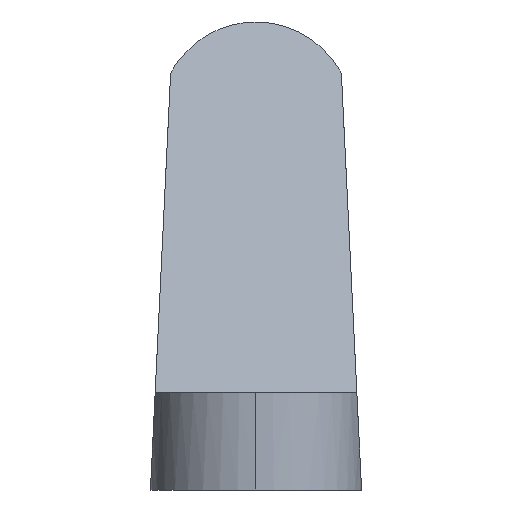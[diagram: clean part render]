
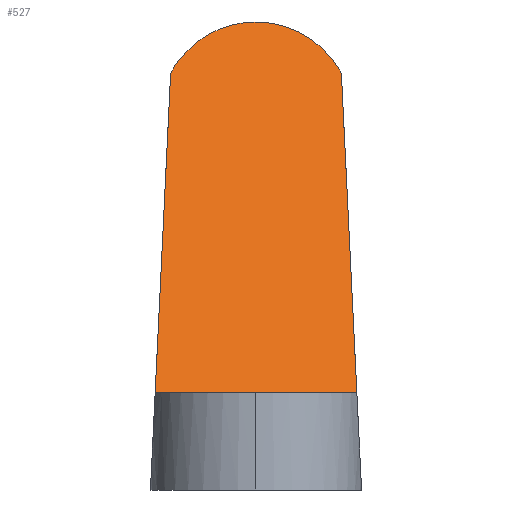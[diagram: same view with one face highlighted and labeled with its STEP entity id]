
A CAD part, left-side view. The second image highlights one B-rep face of the part: STEP entity #527.
In plain terms, the highlighted planar face has unit normal (-0.852, 0, 0.523).
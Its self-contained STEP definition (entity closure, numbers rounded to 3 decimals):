
#39 = EDGE_LOOP ( 'NONE', ( #394, #367, #395, #694 ) ) ;
#49 = LINE ( 'NONE', #325, #235 ) ;
#60 = CARTESIAN_POINT ( 'NONE',  ( -44.907, 7.887, 38.5 ) ) ;
#85 = EDGE_CURVE ( 'NONE', #423, #327, #49, .T. ) ;
#87 = DIRECTION ( 'NONE',  ( -0.522, 0.041, -0.852 ) ) ;
#154 = EDGE_CURVE ( 'NONE', #523, #423, #540, .T. ) ;
#221 = CARTESIAN_POINT ( 'NONE',  ( -63., -9.315, 9. ) ) ;
#235 = VECTOR ( 'NONE', #574, 1000. ) ;
#244 = FACE_OUTER_BOUND ( 'NONE', #39, .T. ) ;
#253 = VECTOR ( 'NONE', #476, 1000. ) ;
#277 = LINE ( 'NONE', #833, #253 ) ;
#279 = CARTESIAN_POINT ( 'NONE',  ( -50.403, 8.321, 29.538 ) ) ;
#307 = AXIS2_PLACEMENT_3D ( 'NONE', #374, #692, #570 ) ;
#322 = PLANE ( 'NONE',  #307 ) ;
#325 = CARTESIAN_POINT ( 'NONE',  ( -63., 36.75, 9. ) ) ;
#327 = VERTEX_POINT ( 'NONE', #221 ) ;
#332 = CARTESIAN_POINT ( 'NONE',  ( -40.508, -4.064, 45.672 ) ) ;
#339 =( BOUNDED_CURVE ( )  B_SPLINE_CURVE ( 3, ( #649, #332, #727, #60 ),
 .UNSPECIFIED., .F., .F. ) 
 B_SPLINE_CURVE_WITH_KNOTS ( ( 4, 4 ),
 ( 5.202, 7.364 ),
 .UNSPECIFIED. ) 
 CURVE ( )  GEOMETRIC_REPRESENTATION_ITEM ( )  RATIONAL_B_SPLINE_CURVE ( ( 1., 0.647, 0.647, 1. ) ) 
 REPRESENTATION_ITEM ( '' )  );
#367 = ORIENTED_EDGE ( 'NONE', *, *, #673, .T. ) ;
#374 = CARTESIAN_POINT ( 'NONE',  ( -49.79, 36.75, 30.538 ) ) ;
#385 = CARTESIAN_POINT ( 'NONE',  ( -44.907, 7.887, 38.5 ) ) ;
#394 = ORIENTED_EDGE ( 'NONE', *, *, #754, .F. ) ;
#395 = ORIENTED_EDGE ( 'NONE', *, *, #154, .T. ) ;
#423 = VERTEX_POINT ( 'NONE', #830 ) ;
#471 = CARTESIAN_POINT ( 'NONE',  ( -44.907, -7.887, 38.5 ) ) ;
#476 = DIRECTION ( 'NONE',  ( -0.522, -0.041, -0.852 ) ) ;
#523 = VERTEX_POINT ( 'NONE', #385 ) ;
#527 = ADVANCED_FACE ( 'NONE', ( #244 ), #322, .F. ) ;
#540 = LINE ( 'NONE', #279, #814 ) ;
#570 = DIRECTION ( 'NONE',  ( -0.523, 0., -0.852 ) ) ;
#574 = DIRECTION ( 'NONE',  ( 0., -1., 0. ) ) ;
#649 = CARTESIAN_POINT ( 'NONE',  ( -44.907, -7.887, 38.5 ) ) ;
#673 = EDGE_CURVE ( 'NONE', #697, #523, #339, .T. ) ;
#692 = DIRECTION ( 'NONE',  ( 0.852, 0., -0.523 ) ) ;
#694 = ORIENTED_EDGE ( 'NONE', *, *, #85, .T. ) ;
#697 = VERTEX_POINT ( 'NONE', #471 ) ;
#727 = CARTESIAN_POINT ( 'NONE',  ( -40.508, 4.064, 45.672 ) ) ;
#754 = EDGE_CURVE ( 'NONE', #697, #327, #277, .T. ) ;
#814 = VECTOR ( 'NONE', #87, 1000. ) ;
#830 = CARTESIAN_POINT ( 'NONE',  ( -63., 9.315, 9. ) ) ;
#833 = CARTESIAN_POINT ( 'NONE',  ( -48.821, -8.196, 32.118 ) ) ;
